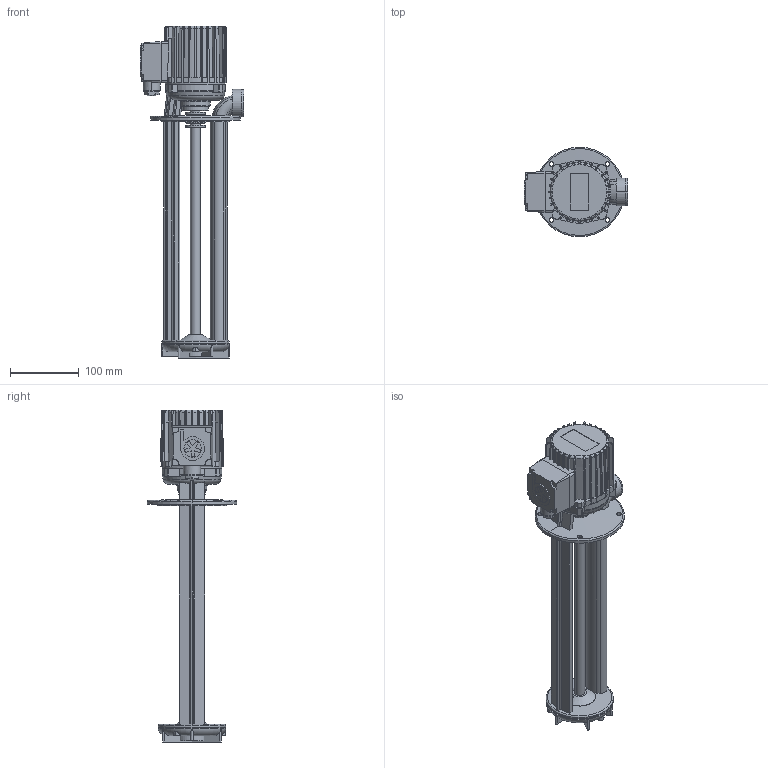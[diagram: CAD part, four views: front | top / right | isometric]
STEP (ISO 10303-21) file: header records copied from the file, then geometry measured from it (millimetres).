
FILE_DESCRIPTION(('no description'),'unknown implementation level');
FILE_NAME('TB25_350_15.stp',' ',('K. H. Brinkmann GmbH & Co. KG'),('CADClick - KiM GmbH - www.kimweb.de'),'unknown preprocess','ACIS','unknown authorization');
FILE_SCHEMA(('automotive_design'));
Length unit declared in the file: millimetre
Products named in the file (3): 1; 2; 3
Bounding box: 150 x 130 x 482 mm (x, y, z)
Volume: 1478297.6 mm3; surface area: 236783.2 mm2
Topology: 3 solids, 3 shells, 620 faces, 1664 edges, 1070 vertices
Faces by surface type: plane 307, cylinder 160, torus 85, cone 68
Entity records: 43328 total; most frequent: CARTESIAN_POINT 9393, STYLED_ITEM 3357, PRESENTATION_STYLE_ASSIGNMENT 3357, COLOUR_RGB 3357, ORIENTED_EDGE 3328, DIRECTION 3113, EDGE_CURVE 1664, CURVE_STYLE 1664
